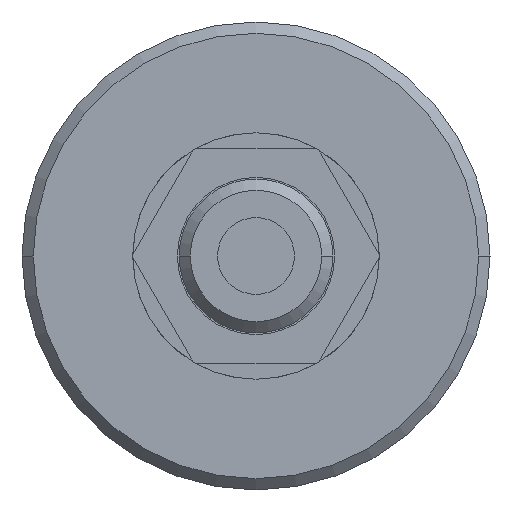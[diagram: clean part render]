
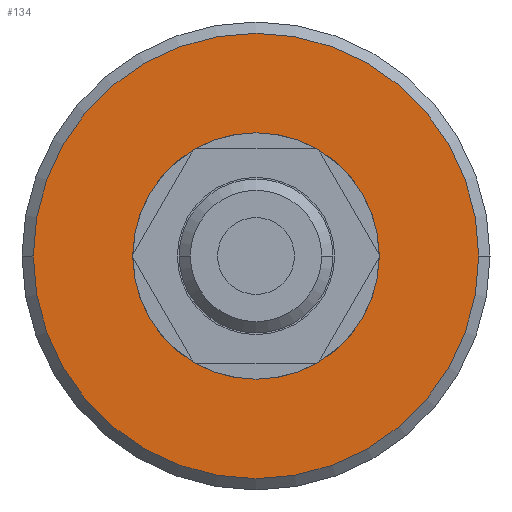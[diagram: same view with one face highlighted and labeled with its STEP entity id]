
A CAD part, left-side view. The second image highlights one B-rep face of the part: STEP entity #134.
In plain terms, the highlighted planar face has unit normal (-1, 0, 0).
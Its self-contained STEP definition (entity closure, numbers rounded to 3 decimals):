
#134=ADVANCED_FACE('',(#308,#309),#310,.T.);
#308=FACE_OUTER_BOUND('',#531,.T.);
#309=FACE_BOUND('',#532,.T.);
#310=PLANE('',#533);
#531=EDGE_LOOP('',(#870,#871));
#532=EDGE_LOOP('',(#872,#873));
#533=AXIS2_PLACEMENT_3D('',#874,#875,#876);
#870=ORIENTED_EDGE('',*,*,#1357,.F.);
#871=ORIENTED_EDGE('',*,*,#1353,.F.);
#872=ORIENTED_EDGE('',*,*,#1272,.T.);
#873=ORIENTED_EDGE('',*,*,#1361,.T.);
#874=CARTESIAN_POINT('',(21.2,15.8,0.0));
#875=DIRECTION('',(-1.0,0.0,0.0));
#876=DIRECTION('',(0.0,0.0,1.0));
#1272=EDGE_CURVE('',#1482,#1510,#1512,.T.);
#1353=EDGE_CURVE('',#1649,#1651,#1652,.T.);
#1357=EDGE_CURVE('',#1651,#1649,#1656,.T.);
#1361=EDGE_CURVE('',#1510,#1482,#1660,.T.);
#1482=VERTEX_POINT('',#1864);
#1510=VERTEX_POINT('',#1899);
#1512=CIRCLE('',#1902,10.9);
#1649=VERTEX_POINT('',#2105);
#1651=VERTEX_POINT('',#2108);
#1652=CIRCLE('',#2109,19.7);
#1656=CIRCLE('',#2114,19.7);
#1660=CIRCLE('',#2118,10.9);
#1864=CARTESIAN_POINT('',(21.2,10.9,0.0));
#1899=CARTESIAN_POINT('',(21.2,-10.9,0.));
#1902=AXIS2_PLACEMENT_3D('',#2320,#2321,#2322);
#2105=CARTESIAN_POINT('',(21.2,-19.7,0.));
#2108=CARTESIAN_POINT('',(21.2,19.7,0.));
#2109=AXIS2_PLACEMENT_3D('',#2440,#2441,#2442);
#2114=AXIS2_PLACEMENT_3D('',#2447,#2448,#2449);
#2118=AXIS2_PLACEMENT_3D('',#2453,#2454,#2455);
#2320=CARTESIAN_POINT('',(21.2,0.0,0.0));
#2321=DIRECTION('',(1.0,0.0,0.0));
#2322=DIRECTION('',(0.0,1.0,0.0));
#2440=CARTESIAN_POINT('',(21.2,0.0,0.0));
#2441=DIRECTION('',(1.0,0.0,0.0));
#2442=DIRECTION('',(0.0,-1.0,0.0));
#2447=CARTESIAN_POINT('',(21.2,0.0,0.0));
#2448=DIRECTION('',(1.0,0.0,0.0));
#2449=DIRECTION('',(0.0,-1.0,0.0));
#2453=CARTESIAN_POINT('',(21.2,0.0,0.0));
#2454=DIRECTION('',(1.0,0.0,0.0));
#2455=DIRECTION('',(0.0,1.0,0.0));
